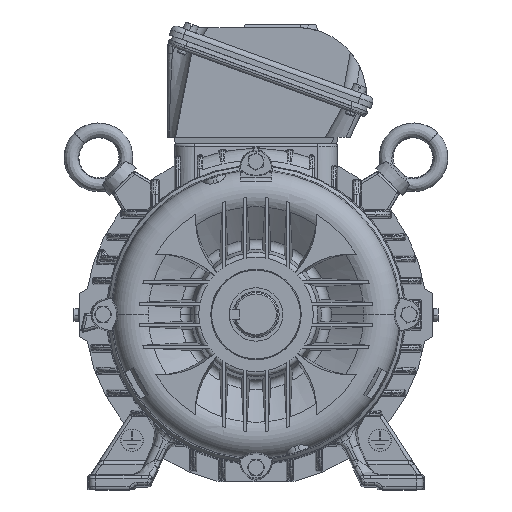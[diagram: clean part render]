
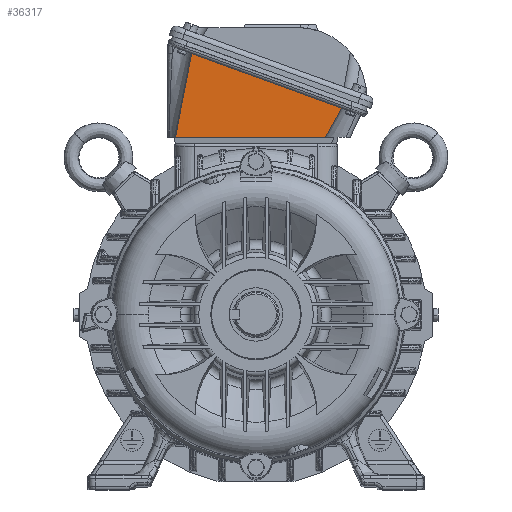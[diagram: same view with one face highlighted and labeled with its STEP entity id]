
A CAD part, top view. The second image highlights one B-rep face of the part: STEP entity #36317.
In plain terms, the highlighted planar face has unit normal (0, 0, 1) as drawn and (1, 0, 0) by its records, which use the part's own axes.
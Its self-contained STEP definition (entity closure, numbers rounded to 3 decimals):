
#388 = DIRECTION ( 'NONE',  ( 0., 0., -1. ) ) ;
#2902 = VERTEX_POINT ( 'NONE', #10669 ) ;
#5016 = CARTESIAN_POINT ( 'NONE',  ( 65.369, 59.362, 55.052 ) ) ;
#7301 = CARTESIAN_POINT ( 'NONE',  ( 65.369, 54.608, 41.991 ) ) ;
#7915 = CARTESIAN_POINT ( 'NONE',  ( 65.369, 0., 52.585 ) ) ;
#8125 = DIRECTION ( 'NONE',  ( 0., -0.982, 0.19 ) ) ;
#10669 = CARTESIAN_POINT ( 'NONE',  ( 65.369, 54.608, 41.991 ) ) ;
#14408 = LINE ( 'NONE', #5016, #35098 ) ;
#17076 = CARTESIAN_POINT ( 'NONE',  ( 65.369, 0., 0. ) ) ;
#19657 = ORIENTED_EDGE ( 'NONE', *, *, #33153, .T. ) ;
#21537 = AXIS2_PLACEMENT_3D ( 'NONE', #17076, #41724, #23724 ) ;
#23100 = CARTESIAN_POINT ( 'NONE',  ( 65.369, 0., -45.253 ) ) ;
#23724 = DIRECTION ( 'NONE',  ( 0., 1., 0. ) ) ;
#24116 = EDGE_CURVE ( 'NONE', #2902, #77816, #14408, .T. ) ;
#24683 = DIRECTION ( 'NONE',  ( 0., -0.342, -0.94 ) ) ;
#29532 = PLANE ( 'NONE',  #21537 ) ;
#30824 = VECTOR ( 'NONE', #8125, 1000. ) ;
#33153 = EDGE_CURVE ( 'NONE', #69846, #46415, #47459, .T. ) ;
#35098 = VECTOR ( 'NONE', #24683, 1000. ) ;
#35782 = DIRECTION ( 'NONE',  ( 0., 0.872, -0.489 ) ) ;
#36317 = ADVANCED_FACE ( 'NONE', ( #53089 ), #29532, .T. ) ;
#36894 = EDGE_CURVE ( 'NONE', #46415, #77816, #42240, .T. ) ;
#38229 = EDGE_LOOP ( 'NONE', ( #81759, #39844, #74966, #19657 ) ) ;
#39466 = CARTESIAN_POINT ( 'NONE',  ( 65.369, 0., -45.253 ) ) ;
#39844 = ORIENTED_EDGE ( 'NONE', *, *, #24116, .F. ) ;
#41724 = DIRECTION ( 'NONE',  ( 1., 0., 0. ) ) ;
#42240 = LINE ( 'NONE', #23100, #57083 ) ;
#46415 = VERTEX_POINT ( 'NONE', #39466 ) ;
#47459 = LINE ( 'NONE', #81965, #57407 ) ;
#48549 = EDGE_CURVE ( 'NONE', #2902, #69846, #62460, .T. ) ;
#53089 = FACE_OUTER_BOUND ( 'NONE', #38229, .T. ) ;
#57083 = VECTOR ( 'NONE', #35782, 1000. ) ;
#57407 = VECTOR ( 'NONE', #388, 1000. ) ;
#62460 = LINE ( 'NONE', #7301, #30824 ) ;
#65338 = CARTESIAN_POINT ( 'NONE',  ( 65.369, 18.984, -55.885 ) ) ;
#69846 = VERTEX_POINT ( 'NONE', #7915 ) ;
#74966 = ORIENTED_EDGE ( 'NONE', *, *, #48549, .T. ) ;
#77816 = VERTEX_POINT ( 'NONE', #65338 ) ;
#81759 = ORIENTED_EDGE ( 'NONE', *, *, #36894, .T. ) ;
#81965 = CARTESIAN_POINT ( 'NONE',  ( 65.369, 0., 52.585 ) ) ;
